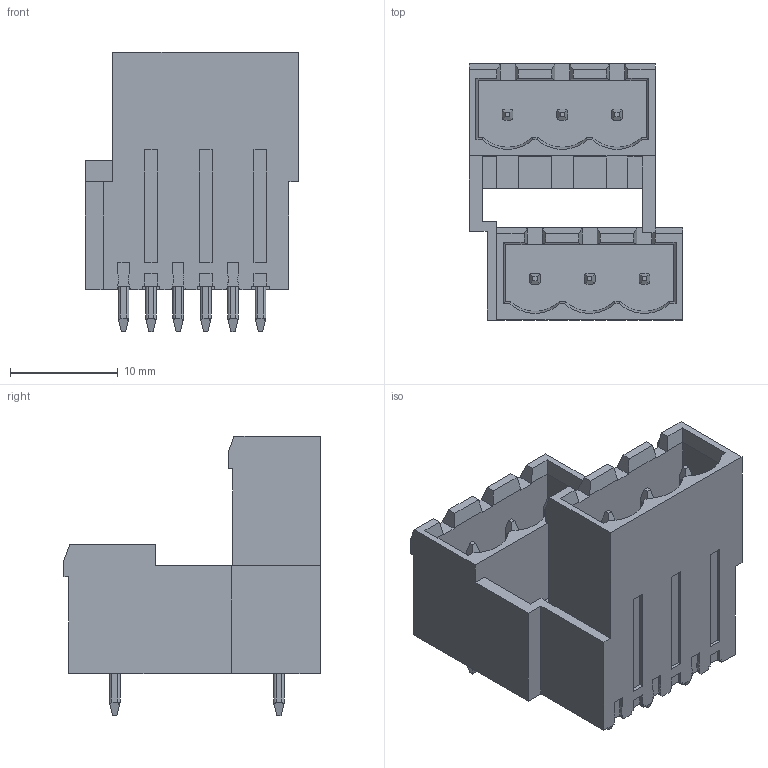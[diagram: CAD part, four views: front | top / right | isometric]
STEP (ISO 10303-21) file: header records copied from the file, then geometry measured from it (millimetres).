
FILE_DESCRIPTION((''),'2;1');
FILE_NAME('3','2019-05-09T',('zhenbing.lai'),(''),'CREO PARAMETRIC BY PTC INC, 2016260','CREO PARAMETRIC BY PTC INC, 2016260','');
FILE_SCHEMA(('CONFIG_CONTROL_DESIGN'));
Length unit declared in the file: millimetre
Products named in the file (1): 3
Bounding box: 19.78 x 23.79 x 25.9 mm (x, y, z)
Volume: 3699.3 mm3; surface area: 3628.3 mm2
Topology: 1 solids, 1 shells, 401 faces, 1144 edges, 755 vertices
Faces by surface type: plane 329, cylinder 60, cone 6, sphere 6
Entity records: 13117 total; most frequent: CARTESIAN_POINT 2753, ORIENTED_EDGE 2276, DIRECTION 1940, EDGE_CURVE 1138, VECTOR 922, LINE 922, VERTEX_POINT 755, AXIS2_PLACEMENT_3D 509
